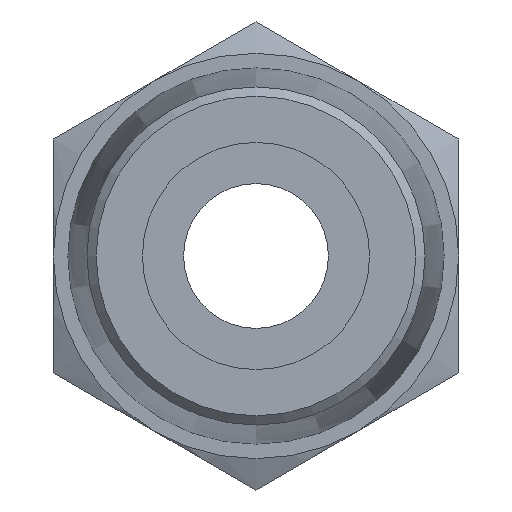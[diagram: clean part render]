
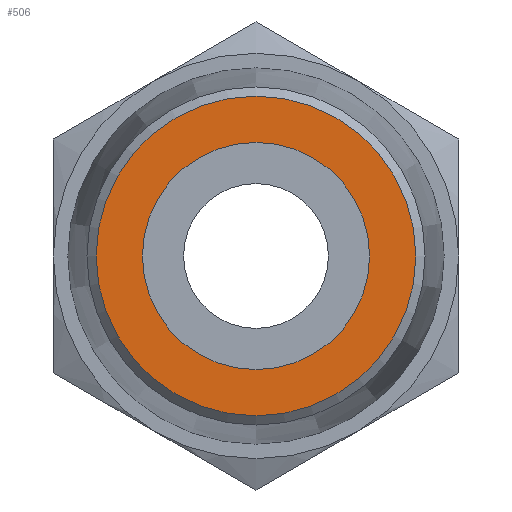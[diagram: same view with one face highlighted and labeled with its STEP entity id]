
A CAD part, front view. The second image highlights one B-rep face of the part: STEP entity #506.
In plain terms, the highlighted planar face has unit normal (0, -1, 0).
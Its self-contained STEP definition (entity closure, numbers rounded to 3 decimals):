
#61=FACE_BOUND('',#127,.T.);
#69=PLANE('',#577);
#87=FACE_OUTER_BOUND('',#126,.T.);
#126=EDGE_LOOP('',(#372));
#127=EDGE_LOOP('',(#373));
#197=CIRCLE('',#561,3.925);
#207=CIRCLE('',#576,5.521);
#230=VERTEX_POINT('',#791);
#240=VERTEX_POINT('',#819);
#275=EDGE_CURVE('',#230,#230,#197,.T.);
#289=EDGE_CURVE('',#240,#240,#207,.T.);
#372=ORIENTED_EDGE('',*,*,#289,.F.);
#373=ORIENTED_EDGE('',*,*,#275,.T.);
#506=ADVANCED_FACE('',(#87,#61),#69,.T.);
#561=AXIS2_PLACEMENT_3D('',#792,#634,#635);
#576=AXIS2_PLACEMENT_3D('',#821,#668,#669);
#577=AXIS2_PLACEMENT_3D('',#822,#670,#671);
#634=DIRECTION('center_axis',(0.,1.,0.));
#635=DIRECTION('ref_axis',(1.,0.,0.));
#668=DIRECTION('center_axis',(0.,1.,0.));
#669=DIRECTION('ref_axis',(0.,0.,1.));
#670=DIRECTION('center_axis',(0.,-1.,0.));
#671=DIRECTION('ref_axis',(0.,0.,-1.));
#791=CARTESIAN_POINT('',(-3.925,0.,0.));
#792=CARTESIAN_POINT('Origin',(0.,0.,0.));
#819=CARTESIAN_POINT('',(0.,0.,-5.521));
#821=CARTESIAN_POINT('Origin',(0.,0.,0.));
#822=CARTESIAN_POINT('Origin',(0.,0.,-5.821));
